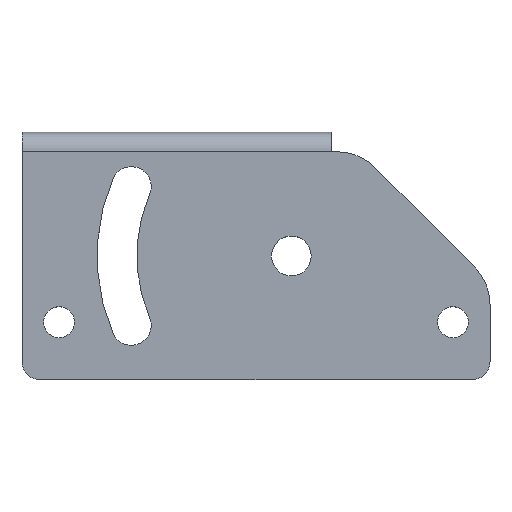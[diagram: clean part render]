
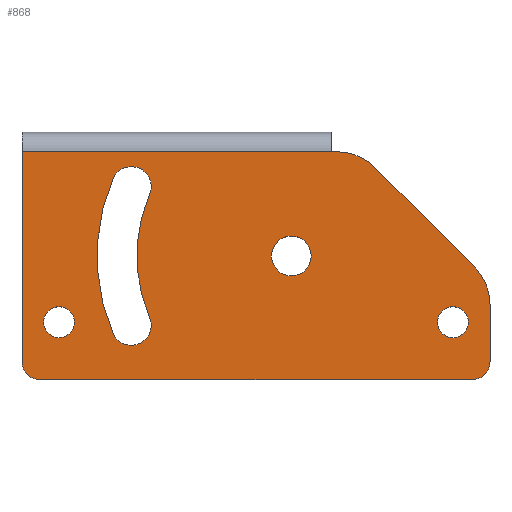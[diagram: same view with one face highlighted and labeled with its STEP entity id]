
A CAD part, top view. The second image highlights one B-rep face of the part: STEP entity #868.
In plain terms, the highlighted planar face has unit normal (0, 0, 1).
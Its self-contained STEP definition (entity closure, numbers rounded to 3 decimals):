
#143=DIRECTION('',(1.,0.,0.));
#144=VECTOR('',#143,35.);
#145=CARTESIAN_POINT('',(-26.5,11.8,2.));
#146=LINE('',#145,#144);
#147=CARTESIAN_POINT('',(24.5,-12.,2.));
#148=DIRECTION('',(0.,0.,1.));
#149=DIRECTION('',(0.,-1.,0.));
#150=AXIS2_PLACEMENT_3D('',#147,#148,#149);
#152=DIRECTION('',(1.,0.,0.));
#153=VECTOR('',#152,49.);
#154=CARTESIAN_POINT('',(-24.5,-14.,2.));
#155=LINE('',#154,#153);
#156=CARTESIAN_POINT('',(-24.5,-12.,2.));
#157=DIRECTION('',(0.,0.,1.));
#158=DIRECTION('',(-1.,0.,0.));
#159=AXIS2_PLACEMENT_3D('',#156,#157,#158);
#161=DIRECTION('',(0.,-1.,0.));
#162=VECTOR('',#161,23.8);
#163=CARTESIAN_POINT('',(-26.5,11.8,2.));
#164=LINE('',#163,#162);
#165=DIRECTION('',(1.,0.,0.));
#166=VECTOR('',#165,0.715);
#167=CARTESIAN_POINT('',(8.5,11.8,2.));
#168=LINE('',#167,#166);
#169=CARTESIAN_POINT('',(9.215,5.8,2.));
#170=DIRECTION('',(0.,0.,1.));
#171=DIRECTION('',(0.707,0.707,0.));
#172=AXIS2_PLACEMENT_3D('',#169,#170,#171);
#174=DIRECTION('',(-0.707,0.707,0.));
#175=VECTOR('',#174,15.96);
#176=CARTESIAN_POINT('',(24.743,-1.243,2.));
#177=LINE('',#176,#175);
#178=CARTESIAN_POINT('',(20.5,-5.485,2.));
#179=DIRECTION('',(0.,0.,1.));
#180=DIRECTION('',(1.,0.,0.));
#181=AXIS2_PLACEMENT_3D('',#178,#179,#180);
#183=DIRECTION('',(0.,1.,0.));
#184=VECTOR('',#183,6.515);
#185=CARTESIAN_POINT('',(26.5,-12.,2.));
#186=LINE('',#185,#184);
#187=CARTESIAN_POINT('',(22.3,-7.5,2.));
#188=DIRECTION('',(0.,0.,-1.));
#189=DIRECTION('',(-1.,0.,0.));
#190=AXIS2_PLACEMENT_3D('',#187,#188,#189);
#192=CARTESIAN_POINT('',(22.3,-7.5,2.));
#193=DIRECTION('',(0.,0.,-1.));
#194=DIRECTION('',(1.,0.,0.));
#195=AXIS2_PLACEMENT_3D('',#192,#193,#194);
#197=CARTESIAN_POINT('',(-22.3,-7.5,2.));
#198=DIRECTION('',(0.,0.,-1.));
#199=DIRECTION('',(-1.,0.,0.));
#200=AXIS2_PLACEMENT_3D('',#197,#198,#199);
#202=CARTESIAN_POINT('',(-22.3,-7.5,2.));
#203=DIRECTION('',(0.,0.,-1.));
#204=DIRECTION('',(1.,0.,0.));
#205=AXIS2_PLACEMENT_3D('',#202,#203,#204);
#207=CARTESIAN_POINT('',(4.,0.,2.));
#208=DIRECTION('',(0.,0.,-1.));
#209=DIRECTION('',(1.,0.,0.));
#210=AXIS2_PLACEMENT_3D('',#207,#208,#209);
#212=CARTESIAN_POINT('',(4.,0.,2.));
#213=DIRECTION('',(0.,0.,-1.));
#214=DIRECTION('',(-1.,0.,0.));
#215=AXIS2_PLACEMENT_3D('',#212,#213,#214);
#217=CARTESIAN_POINT('',(-14.118,-7.862,2.));
#218=DIRECTION('',(0.,0.,1.));
#219=DIRECTION('',(-0.917,-0.398,0.));
#220=AXIS2_PLACEMENT_3D('',#217,#218,#219);
#222=CARTESIAN_POINT('',(4.,0.,2.));
#223=DIRECTION('',(0.,0.,-1.));
#224=DIRECTION('',(-0.917,-0.398,0.));
#225=AXIS2_PLACEMENT_3D('',#222,#223,#224);
#227=CARTESIAN_POINT('',(-14.118,7.862,2.));
#228=DIRECTION('',(0.,0.,1.));
#229=DIRECTION('',(0.917,-0.398,0.));
#230=AXIS2_PLACEMENT_3D('',#227,#228,#229);
#232=CARTESIAN_POINT('',(4.,0.,2.));
#233=DIRECTION('',(0.,0.,-1.));
#234=DIRECTION('',(-0.917,-0.398,0.));
#235=AXIS2_PLACEMENT_3D('',#232,#233,#234);
#531=CARTESIAN_POINT('',(-26.5,11.8,2.));
#533=VERTEX_POINT('',#531);
#535=CARTESIAN_POINT('',(8.5,11.8,2.));
#537=VERTEX_POINT('',#535);
#551=CARTESIAN_POINT('',(13.457,10.043,2.));
#552=VERTEX_POINT('',#551);
#553=CARTESIAN_POINT('',(9.215,11.8,2.));
#554=VERTEX_POINT('',#553);
#555=CARTESIAN_POINT('',(26.5,-5.485,2.));
#556=CARTESIAN_POINT('',(24.743,-1.243,2.));
#557=VERTEX_POINT('',#555);
#558=VERTEX_POINT('',#556);
#567=CARTESIAN_POINT('',(24.5,-14.,2.));
#568=VERTEX_POINT('',#567);
#569=CARTESIAN_POINT('',(26.5,-12.,2.));
#570=VERTEX_POINT('',#569);
#575=CARTESIAN_POINT('',(-26.5,-12.,2.));
#576=VERTEX_POINT('',#575);
#577=CARTESIAN_POINT('',(-24.5,-14.,2.));
#578=VERTEX_POINT('',#577);
#619=CARTESIAN_POINT('',(-24.05,-7.5,2.));
#620=CARTESIAN_POINT('',(-20.55,-7.5,2.));
#621=VERTEX_POINT('',#619);
#622=VERTEX_POINT('',#620);
#623=CARTESIAN_POINT('',(20.55,-7.5,2.));
#624=CARTESIAN_POINT('',(24.05,-7.5,2.));
#625=VERTEX_POINT('',#623);
#626=VERTEX_POINT('',#624);
#655=CARTESIAN_POINT('',(6.25,0.,2.));
#656=CARTESIAN_POINT('',(1.75,0.,2.));
#657=VERTEX_POINT('',#655);
#658=VERTEX_POINT('',#656);
#660=CARTESIAN_POINT('',(-12.054,-6.966,2.));
#662=VERTEX_POINT('',#660);
#664=CARTESIAN_POINT('',(-16.182,-8.758,2.));
#666=VERTEX_POINT('',#664);
#668=CARTESIAN_POINT('',(-16.182,8.758,2.));
#670=VERTEX_POINT('',#668);
#672=CARTESIAN_POINT('',(-12.054,6.966,2.));
#674=VERTEX_POINT('',#672);
#818=CARTESIAN_POINT('',(0.,0.,2.));
#819=DIRECTION('',(0.,0.,1.));
#820=DIRECTION('',(1.,0.,0.));
#821=AXIS2_PLACEMENT_3D('',#818,#819,#820);
#822=PLANE('',#821);
#823=ORIENTED_EDGE('',*,*,#739,.F.);
#824=ORIENTED_EDGE('',*,*,#755,.F.);
#825=ORIENTED_EDGE('',*,*,#768,.F.);
#826=ORIENTED_EDGE('',*,*,#783,.F.);
#827=ORIENTED_EDGE('',*,*,#808,.T.);
#829=ORIENTED_EDGE('',*,*,#828,.T.);
#831=ORIENTED_EDGE('',*,*,#830,.F.);
#833=ORIENTED_EDGE('',*,*,#832,.F.);
#835=ORIENTED_EDGE('',*,*,#834,.F.);
#837=ORIENTED_EDGE('',*,*,#836,.F.);
#838=EDGE_LOOP('',(#823,#824,#825,#826,#827,#829,#831,#833,#835,#837));
#839=FACE_OUTER_BOUND('',#838,.F.);
#841=ORIENTED_EDGE('',*,*,#840,.F.);
#843=ORIENTED_EDGE('',*,*,#842,.F.);
#844=EDGE_LOOP('',(#841,#843));
#845=FACE_BOUND('',#844,.F.);
#847=ORIENTED_EDGE('',*,*,#846,.F.);
#849=ORIENTED_EDGE('',*,*,#848,.F.);
#850=EDGE_LOOP('',(#847,#849));
#851=FACE_BOUND('',#850,.F.);
#853=ORIENTED_EDGE('',*,*,#852,.F.);
#855=ORIENTED_EDGE('',*,*,#854,.F.);
#856=EDGE_LOOP('',(#853,#855));
#857=FACE_BOUND('',#856,.F.);
#859=ORIENTED_EDGE('',*,*,#858,.T.);
#861=ORIENTED_EDGE('',*,*,#860,.T.);
#863=ORIENTED_EDGE('',*,*,#862,.T.);
#865=ORIENTED_EDGE('',*,*,#864,.F.);
#866=EDGE_LOOP('',(#859,#861,#863,#865));
#867=FACE_BOUND('',#866,.F.);
#868=ADVANCED_FACE('',(#839,#845,#851,#857,#867),#822,.T.);
#151=CIRCLE('',#150,2.);
#160=CIRCLE('',#159,2.);
#173=CIRCLE('',#172,6.);
#182=CIRCLE('',#181,6.);
#191=CIRCLE('',#190,1.75);
#196=CIRCLE('',#195,1.75);
#201=CIRCLE('',#200,1.75);
#206=CIRCLE('',#205,1.75);
#211=CIRCLE('',#210,2.25);
#216=CIRCLE('',#215,2.25);
#221=CIRCLE('',#220,2.25);
#226=CIRCLE('',#225,17.5);
#231=CIRCLE('',#230,2.25);
#236=CIRCLE('',#235,22.);
#739=EDGE_CURVE('',#568,#570,#151,.T.);
#755=EDGE_CURVE('',#578,#568,#155,.T.);
#768=EDGE_CURVE('',#576,#578,#160,.T.);
#783=EDGE_CURVE('',#533,#576,#164,.T.);
#808=EDGE_CURVE('',#533,#537,#146,.T.);
#828=EDGE_CURVE('',#537,#554,#168,.T.);
#830=EDGE_CURVE('',#552,#554,#173,.T.);
#832=EDGE_CURVE('',#558,#552,#177,.T.);
#834=EDGE_CURVE('',#557,#558,#182,.T.);
#836=EDGE_CURVE('',#570,#557,#186,.T.);
#840=EDGE_CURVE('',#625,#626,#191,.T.);
#842=EDGE_CURVE('',#626,#625,#196,.T.);
#846=EDGE_CURVE('',#621,#622,#201,.T.);
#848=EDGE_CURVE('',#622,#621,#206,.T.);
#852=EDGE_CURVE('',#657,#658,#211,.T.);
#854=EDGE_CURVE('',#658,#657,#216,.T.);
#858=EDGE_CURVE('',#666,#662,#221,.T.);
#860=EDGE_CURVE('',#662,#674,#226,.T.);
#862=EDGE_CURVE('',#674,#670,#231,.T.);
#864=EDGE_CURVE('',#666,#670,#236,.T.);
